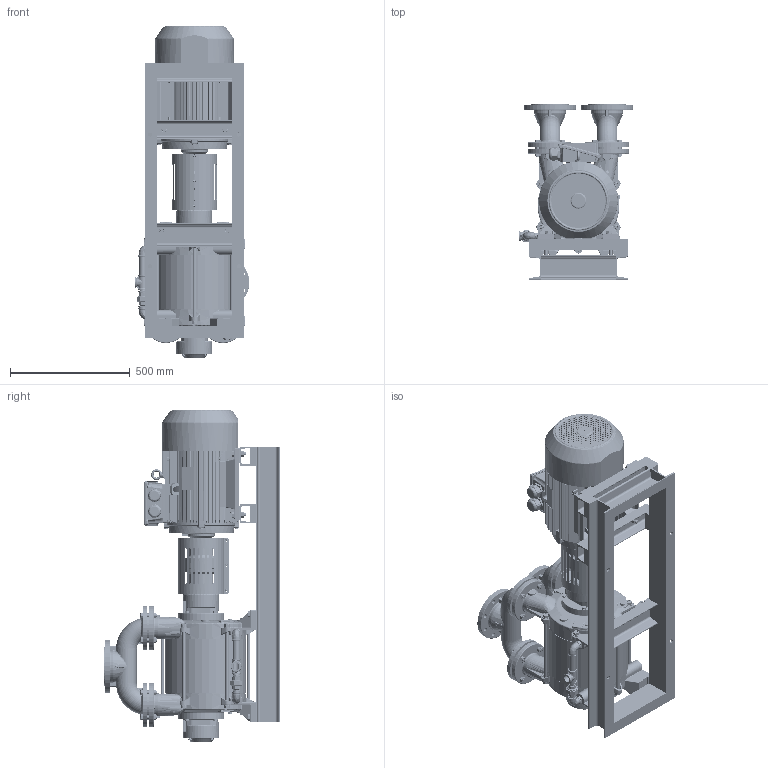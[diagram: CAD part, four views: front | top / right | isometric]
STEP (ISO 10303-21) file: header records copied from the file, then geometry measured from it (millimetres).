
FILE_DESCRIPTION (( 'STEP AP214' ), '1' );
FILE_NAME ('GMVT 275-220 MONTAJ IE3 MOTORLU.STEP', '2024-05-08T13:08:45', ( '' ), ( '' ), 'SwSTEP 2.0', 'SolidWorks 2024', '' );
FILE_SCHEMA (( 'AUTOMOTIVE_DESIGN' ));
Length unit declared in the file: millimetre
Products named in the file (1): GMVT 275-220 MONTAJ IE3 MOTORLU
Bounding box: 478.49 x 732 x 1384.51 mm (x, y, z)
Volume: 97986032.1 mm3; surface area: 6184019.1 mm2
Topology: 114 solids, 146 shells, 13325 faces, 33999 edges, 21244 vertices
Faces by surface type: plane 4597, cylinder 4361, bspline 1801, cone 1656, torus 727, sphere 183
Entity records: 571099 total; most frequent: CARTESIAN_POINT 277140, ORIENTED_EDGE 67298, DIRECTION 51537, EDGE_CURVE 33649, VERTEX_POINT 21224, AXIS2_PLACEMENT_3D 19786, EDGE_LOOP 14291, ADVANCED_FACE 13325
